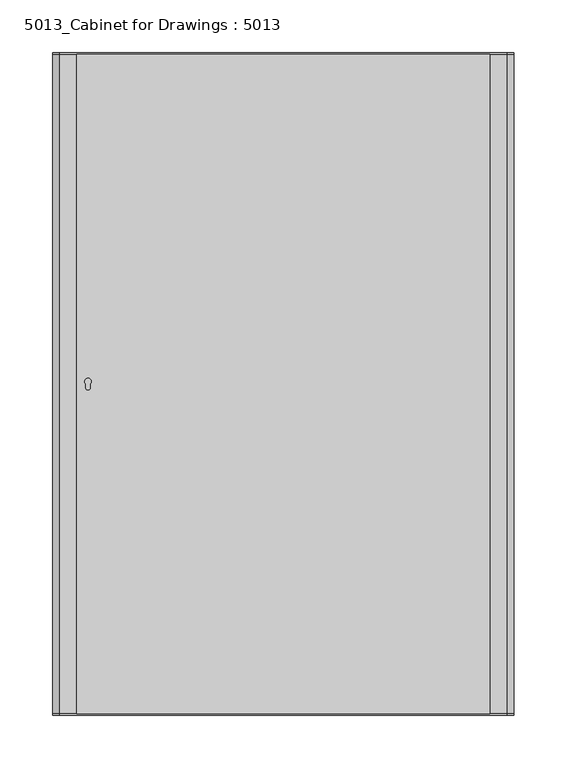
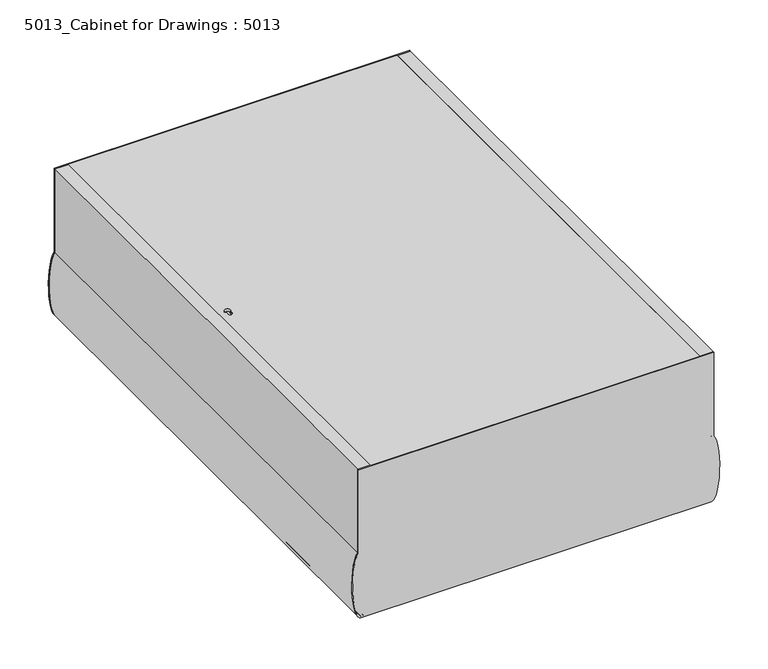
"""IFC4 building model written with IfcOpenShell, lengths in millimetres: alarm geometry, 5013_Cabinet for Drawings : 5013."""

from ifc_helpers import new_model, si_unit, point, frame, frame_2d, origin, origin_with_axes, place, context, project, spatial, polyline, circle_curve, ellipse_curve, trimmed, segment, composite_curve, outline, extrude, source, transform, mapped, element, save
from ifc_brep_helpers import plane_surface, extruded_surface, advanced_brep


def alarm_5013_cabinet_for_drawings_5013_d29890c5(model_context):
    return source(origin(), model_context, "Body", "SolidModel", [
        extrude(outline(polyline([(196.0, 312.5), (196.0, -312.5), (-196.0, -312.5), (-196.0, 312.5), (196.0, 312.5)]), holes=[composite_curve([segment(trimmed(circle_curve(frame_2d((-185.3840305, -3.2991506)), 2.3331281), [point((-187.7171587, -3.2991506))], [point((-183.0509024, -3.2991506))], True, "CARTESIAN"), True, "CONTINUOUS"), segment(polyline([(-183.0509024, -3.2991506), (-183.0509024, 0.0)]), True, "CONTINUOUS"), segment(trimmed(circle_curve(frame_2d((-185.3840305, 2.1998224)), 3.2066658), [point((-183.0509024, 0.0))], [point((-187.7171587, 0.0))], True, "CARTESIAN"), True, "CONTINUOUS"), segment(polyline([(-187.7171587, 0.0), (-187.7171587, -3.2991506)]), True, "CONTINUOUS")], self_intersect=False)]), frame((0.0, 0.0, 184.0), z_axis=(0.0, 0.0, 1.0), x_axis=(1.0, 0.0, 0.0)), (0.0, 0.0, 1.0), 3.0),
        extrude(outline(polyline([(206.0, 312.5), (206.0, -312.5), (-206.0, -312.5), (-206.0, 312.5), (206.0, 312.5)])), origin_with_axes(), (0.0, 0.0, 1.0), 3.0),
        advanced_brep(
        [(-212.0, 312.5, 187.0), (-212.0, 312.5, 82.0617947), (-209.0741049, 312.5, 0.0), (209.0741049, 312.5, 0.0), (212.0, 312.5, 82.0617947), (212.0, 312.5, 187.0), (-212.0, 314.0, 187.0), (212.0, 314.0, 187.0), (212.0, 314.0, 82.0617947), (209.0741049, 314.0, 0.0), (-209.0741049, 314.0, 0.0), (-212.0, 314.0, 82.0617947)],
        [
            (0, 1),
            (1, 2, ellipse_curve(frame((-209.0741049, 312.5, 41.9929453), z_axis=(0.0, -1.0, 0.0), x_axis=(0.0, 0.0, 1.0)), 41.9929453, 9.7780266)),
            (2, 3),
            (3, 4, ellipse_curve(frame((209.0741049, 312.5, 41.9929453), z_axis=(0.0, -1.0, 0.0), x_axis=(0.0, 0.0, 1.0)), 41.9929453, 9.7780266)),
            (4, 5),
            (5, 0),
            (6, 7),
            (7, 8),
            (8, 9, ellipse_curve(frame((209.0741049, 314.0, 41.9929453), z_axis=(0.0, 1.0, 0.0), x_axis=(0.0, 0.0, 1.0)), 41.9929453, 9.7780266)),
            (9, 10),
            (10, 11, ellipse_curve(frame((-209.0741049, 314.0, 41.9929453), z_axis=(0.0, 1.0, 0.0), x_axis=(0.0, 0.0, 1.0)), 41.9929453, 9.7780266)),
            (11, 6),
            (11, 1),
            (0, 6),
            (9, 3),
            (2, 10),
            (8, 4),
            (7, 5),
        ],
        [
            plane_surface(frame((-212.0, 312.5, 187.0), z_axis=(0.0, -1.0, 0.0), x_axis=(-1.0, 0.0, 0.0))),
            plane_surface(frame((-212.0, 314.0, 187.0), z_axis=(0.0, 1.0, 0.0), x_axis=(1.0, 0.0, 0.0))),
            plane_surface(frame((-212.0, 314.0, 82.0617947), z_axis=(-1.0, 0.0, 0.0), x_axis=(0.0, -1.0, 0.0))),
            plane_surface(frame((209.0741049, 314.0, 0.0), z_axis=(0.0, 0.0, -1.0), x_axis=(0.0, -1.0, 0.0))),
            extruded_surface(trimmed(ellipse_curve(frame((209.0741049, 311.0, 41.9929453), z_axis=(0.0, 1.0, 0.0), x_axis=(0.0, 0.0, 1.0)), 41.9929453, 9.7780266), [point((212.0, 311.0, 82.0617947))], [point((209.0741049, 311.0, 0.0))], True, "CARTESIAN"), (0.0, 1.5, 0.0), 1.5),
            plane_surface(frame((212.0, 314.0, 187.0), z_axis=(1.0, 0.0, 0.0), x_axis=(0.0, -1.0, 0.0))),
            plane_surface(frame((-212.0, 314.0, 187.0), z_axis=(0.0, 0.0, 1.0), x_axis=(0.0, -1.0, 0.0))),
            extruded_surface(trimmed(ellipse_curve(frame((-209.0741049, 311.0, 41.9929453), z_axis=(0.0, 1.0, 0.0), x_axis=(0.0, 0.0, 1.0)), 41.9929453, 9.7780266), [point((-209.0741049, 311.0, 0.0))], [point((-212.0, 311.0, 82.0617947))], True, "CARTESIAN"), (0.0, 1.5, 0.0), 1.5),
        ],
        [
            (0, [[1, 2, 3, 4, 5, 6]]),
            (1, [[7, 8, 9, 10, 11, 12]]),
            (2, [[-12, 13, -1, 14]]),
            (3, [[-10, 15, -3, 16]]),
            (4, [[-9, 17, -4, -15]]),
            (5, [[-8, 18, -5, -17]]),
            (6, [[-7, -14, -6, -18]]),
            (7, [[-11, -16, -2, -13]]),
        ],
    ),
        advanced_brep(
        [(-212.0, -312.5, 187.0), (212.0, -312.5, 187.0), (212.0, -312.5, 82.0617947), (209.0741049, -312.5, 0.0), (-209.0741049, -312.5, 0.0), (-212.0, -312.5, 82.0617947), (-212.0, -314.0, 187.0), (-212.0, -314.0, 82.0617947), (-209.0741049, -314.0, 0.0), (209.0741049, -314.0, 0.0), (212.0, -314.0, 82.0617947), (212.0, -314.0, 187.0)],
        [
            (0, 1),
            (1, 2),
            (2, 3, ellipse_curve(frame((209.0741049, -312.5, 41.9929453), z_axis=(0.0, 1.0, 0.0), x_axis=(0.0, 0.0, 1.0)), 41.9929453, 9.7780266)),
            (3, 4),
            (4, 5, ellipse_curve(frame((-209.0741049, -312.5, 41.9929453), z_axis=(0.0, 1.0, 0.0), x_axis=(0.0, 0.0, 1.0)), 41.9929453, 9.7780266)),
            (5, 0),
            (6, 7),
            (7, 8, ellipse_curve(frame((-209.0741049, -314.0, 41.9929453), z_axis=(0.0, -1.0, 0.0), x_axis=(0.0, 0.0, 1.0)), 41.9929453, 9.7780266)),
            (8, 9),
            (9, 10, ellipse_curve(frame((209.0741049, -314.0, 41.9929453), z_axis=(0.0, -1.0, 0.0), x_axis=(0.0, 0.0, 1.0)), 41.9929453, 9.7780266)),
            (10, 11),
            (11, 6),
            (6, 0),
            (5, 7),
            (8, 4),
            (3, 9),
            (2, 10),
            (1, 11),
        ],
        [
            plane_surface(frame((-212.0, -312.5, 82.0617947), z_axis=(0.0, 1.0, 0.0), x_axis=(0.0, 0.0, 1.0))),
            plane_surface(frame((-212.0, -314.0, 82.0617947), z_axis=(0.0, -1.0, 0.0), x_axis=(0.0, 0.0, -1.0))),
            plane_surface(frame((-212.0, -314.0, 187.0), z_axis=(-1.0, 0.0, 0.0), x_axis=(0.0, 1.0, 0.0))),
            plane_surface(frame((-209.0741049, -314.0, 0.0), z_axis=(0.0, 0.0, -1.0), x_axis=(0.0, 1.0, 0.0))),
            extruded_surface(trimmed(ellipse_curve(frame((209.0741049, -311.0, 41.9929453), z_axis=(0.0, -1.0, 0.0), x_axis=(0.0, 0.0, 1.0)), 41.9929453, 9.7780266), [point((209.0741049, -311.0, 0.0))], [point((212.0, -311.0, 82.0617947))], True, "CARTESIAN"), (0.0, -1.5, 0.0), 1.5),
            plane_surface(frame((212.0, -314.0, 82.0617947), z_axis=(1.0, 0.0, 0.0), x_axis=(0.0, 1.0, 0.0))),
            plane_surface(frame((212.0, -314.0, 187.0), z_axis=(0.0, 0.0, 1.0), x_axis=(0.0, 1.0, 0.0))),
            extruded_surface(trimmed(ellipse_curve(frame((-209.0741049, -311.0, 41.9929453), z_axis=(0.0, -1.0, 0.0), x_axis=(0.0, 0.0, 1.0)), 41.9929453, 9.7780266), [point((-212.0, -311.0, 82.0617947))], [point((-209.0741049, -311.0, 0.0))], True, "CARTESIAN"), (0.0, -1.5, 0.0), 1.5),
        ],
        [
            (0, [[1, 2, 3, 4, 5, 6]]),
            (1, [[7, 8, 9, 10, 11, 12]]),
            (2, [[-7, 13, -6, 14]]),
            (3, [[-9, 15, -4, 16]]),
            (4, [[-10, -16, -3, 17]]),
            (5, [[-11, -17, -2, 18]]),
            (6, [[-12, -18, -1, -13]]),
            (7, [[-8, -14, -5, -15]]),
        ],
    ),
        advanced_brep(
        [(209.0, -312.5, 82.0617947), (206.0741049, -312.5, 0.0), (209.0741049, -312.5, 0.0), (212.0, -312.5, 82.0617947), (212.0, -312.5, 187.0), (196.0, -312.5, 187.0), (196.0, -312.5, 184.0), (209.0, -312.5, 184.0), (209.0, 312.5, 82.0617947), (209.0, 312.5, 184.0), (196.0, 312.5, 184.0), (196.0, 312.5, 187.0), (212.0, 312.5, 187.0), (212.0, 312.5, 82.0617947), (209.0741049, 312.5, 0.0), (206.0741049, 312.5, 0.0)],
        [
            (0, 1, ellipse_curve(frame((206.0741049, -312.5, 41.9929453), z_axis=(0.0, 1.0, 0.0), x_axis=(0.0, 0.0, 1.0)), 41.9929453, 9.7780266)),
            (1, 2),
            (2, 3, ellipse_curve(frame((209.0741049, -312.5, 41.9929453), z_axis=(0.0, -1.0, 0.0), x_axis=(0.0, 0.0, 1.0)), 41.9929453, 9.7780266)),
            (3, 4),
            (4, 5),
            (5, 6),
            (6, 7),
            (7, 0),
            (8, 9),
            (9, 10),
            (10, 11),
            (11, 12),
            (12, 13),
            (13, 14, ellipse_curve(frame((209.0741049, 312.5, 41.9929453), z_axis=(0.0, 1.0, 0.0), x_axis=(0.0, 0.0, 1.0)), 41.9929453, 9.7780266)),
            (14, 15),
            (15, 8, ellipse_curve(frame((206.0741049, 312.5, 41.9929453), z_axis=(0.0, -1.0, 0.0), x_axis=(0.0, 0.0, 1.0)), 41.9929453, 9.7780266)),
            (7, 9),
            (8, 0),
            (6, 10),
            (5, 11),
            (4, 12),
            (3, 13),
            (2, 14),
            (1, 15),
        ],
        [
            plane_surface(frame((206.0741049, -312.5, 83.9858906), z_axis=(0.0, -1.0, 0.0), x_axis=(1.0, 0.0, 0.0))),
            plane_surface(frame((206.0741049, 312.5, 83.9858906), z_axis=(0.0, 1.0, 0.0), x_axis=(-1.0, 0.0, 0.0))),
            plane_surface(frame((209.0, -312.5, 184.0), z_axis=(-1.0, 0.0, 0.0), x_axis=(0.0, 1.0, 0.0))),
            plane_surface(frame((196.0, -312.5, 184.0), z_axis=(0.0, 0.0, -1.0), x_axis=(0.0, 1.0, 0.0))),
            plane_surface(frame((196.0, -312.5, 187.0), z_axis=(-1.0, 0.0, 0.0), x_axis=(0.0, 1.0, 0.0))),
            plane_surface(frame((212.0, -312.5, 187.0), z_axis=(0.0, 0.0, 1.0), x_axis=(0.0, 1.0, 0.0))),
            plane_surface(frame((212.0, -312.5, 82.0617947), z_axis=(1.0, 0.0, 0.0), x_axis=(0.0, 1.0, 0.0))),
            extruded_surface(trimmed(ellipse_curve(frame((209.0741049, 937.5, 41.9929453), z_axis=(0.0, -1.0, 0.0), x_axis=(0.0, 0.0, 1.0)), 41.9929453, 9.7780266), [point((209.0741049, 937.5, 0.0))], [point((212.0, 937.5, 82.0617947))], True, "CARTESIAN"), (0.0, -625.0, 0.0), 625.0),
            plane_surface(frame((206.0741049, -312.5, 0.0), z_axis=(0.0, 0.0, -1.0), x_axis=(0.0, 1.0, 0.0))),
            extruded_surface(trimmed(ellipse_curve(frame((206.0741049, 937.5, 41.9929453), z_axis=(0.0, 1.0, 0.0), x_axis=(0.0, 0.0, 1.0)), 41.9929453, 9.7780266), [point((209.0, 937.5, 82.0617947))], [point((206.0741049, 937.5, 0.0))], True, "CARTESIAN"), (0.0, -625.0, 0.0), 625.0),
        ],
        [
            (0, [[1, 2, 3, 4, 5, 6, 7, 8]]),
            (1, [[9, 10, 11, 12, 13, 14, 15, 16]]),
            (2, [[-8, 17, -9, 18]]),
            (3, [[-7, 19, -10, -17]]),
            (4, [[-6, 20, -11, -19]]),
            (5, [[-5, 21, -12, -20]]),
            (6, [[-4, 22, -13, -21]]),
            (7, [[-3, 23, -14, -22]]),
            (8, [[-2, 24, -15, -23]]),
            (9, [[-1, -18, -16, -24]]),
        ],
    ),
        advanced_brep(
        [(-209.0, -312.5, 82.0617947), (-209.0, -312.5, 184.0), (-196.0, -312.5, 184.0), (-196.0, -312.5, 187.0), (-212.0, -312.5, 187.0), (-212.0, -312.5, 82.0617947), (-209.0741049, -312.5, 0.0), (-206.0741049, -312.5, 0.0), (-209.0, 312.5, 82.0617947), (-206.0741049, 312.5, 0.0), (-209.0741049, 312.5, 0.0), (-212.0, 312.5, 82.0617947), (-212.0, 312.5, 187.0), (-196.0, 312.5, 187.0), (-196.0, 312.5, 184.0), (-209.0, 312.5, 184.0)],
        [
            (0, 1),
            (1, 2),
            (2, 3),
            (3, 4),
            (4, 5),
            (5, 6, ellipse_curve(frame((-209.0741049, -312.5, 41.9929453), z_axis=(0.0, -1.0, 0.0), x_axis=(0.0, 0.0, 1.0)), 41.9929453, 9.7780266)),
            (6, 7),
            (7, 0, ellipse_curve(frame((-206.0741049, -312.5, 41.9929453), z_axis=(0.0, 1.0, 0.0), x_axis=(0.0, 0.0, 1.0)), 41.9929453, 9.7780266)),
            (8, 9, ellipse_curve(frame((-206.0741049, 312.5, 41.9929453), z_axis=(0.0, -1.0, 0.0), x_axis=(0.0, 0.0, 1.0)), 41.9929453, 9.7780266)),
            (9, 10),
            (10, 11, ellipse_curve(frame((-209.0741049, 312.5, 41.9929453), z_axis=(0.0, 1.0, 0.0), x_axis=(0.0, 0.0, 1.0)), 41.9929453, 9.7780266)),
            (11, 12),
            (12, 13),
            (13, 14),
            (14, 15),
            (15, 8),
            (0, 8),
            (15, 1),
            (14, 2),
            (13, 3),
            (12, 4),
            (11, 5),
            (10, 6),
            (9, 7),
        ],
        [
            plane_surface(frame((-209.0, -312.5, 184.0), z_axis=(0.0, -1.0, 0.0), x_axis=(0.0, 0.0, 1.0))),
            plane_surface(frame((-209.0, 312.5, 184.0), z_axis=(0.0, 1.0, 0.0), x_axis=(0.0, 0.0, -1.0))),
            plane_surface(frame((-209.0, -312.5, 82.0617947), z_axis=(1.0, 0.0, 0.0), x_axis=(0.0, 1.0, 0.0))),
            plane_surface(frame((-209.0, -312.5, 184.0), z_axis=(0.0, 0.0, -1.0), x_axis=(0.0, 1.0, 0.0))),
            plane_surface(frame((-196.0, -312.5, 184.0), z_axis=(1.0, 0.0, 0.0), x_axis=(0.0, 1.0, 0.0))),
            plane_surface(frame((-196.0, -312.5, 187.0), z_axis=(0.0, 0.0, 1.0), x_axis=(0.0, 1.0, 0.0))),
            plane_surface(frame((-212.0, -312.5, 187.0), z_axis=(-1.0, 0.0, 0.0), x_axis=(0.0, 1.0, 0.0))),
            extruded_surface(trimmed(ellipse_curve(frame((-209.0741049, 937.5, 41.9929453), z_axis=(0.0, -1.0, 0.0), x_axis=(0.0, 0.0, 1.0)), 41.9929453, 9.7780266), [point((-212.0, 937.5, 82.0617947))], [point((-209.0741049, 937.5, 0.0))], True, "CARTESIAN"), (0.0, -625.0, 0.0), 625.0),
            plane_surface(frame((-209.0741049, -312.5, 0.0), z_axis=(0.0, 0.0, -1.0), x_axis=(0.0, 1.0, 0.0))),
            extruded_surface(trimmed(ellipse_curve(frame((-206.0741049, 937.5, 41.9929453), z_axis=(0.0, 1.0, 0.0), x_axis=(0.0, 0.0, 1.0)), 41.9929453, 9.7780266), [point((-206.0741049, 937.5, 0.0))], [point((-209.0, 937.5, 82.0617947))], True, "CARTESIAN"), (0.0, -625.0, 0.0), 625.0),
        ],
        [
            (0, [[1, 2, 3, 4, 5, 6, 7, 8]]),
            (1, [[9, 10, 11, 12, 13, 14, 15, 16]]),
            (2, [[-1, 17, -16, 18]]),
            (3, [[-2, -18, -15, 19]]),
            (4, [[-3, -19, -14, 20]]),
            (5, [[-4, -20, -13, 21]]),
            (6, [[-5, -21, -12, 22]]),
            (7, [[-6, -22, -11, 23]]),
            (8, [[-7, -23, -10, 24]]),
            (9, [[-8, -24, -9, -17]]),
        ],
    ),
        advanced_brep(
        [(-209.0, -312.5, 82.0643791), (-206.0, -312.5, 0.0), (-203.0, -312.5, 0.0), (-206.0, -312.5, 82.0643791), (-206.0, -312.5, 122.0), (-209.0, -312.5, 122.0), (-209.0, 312.5, 82.0643791), (-209.0, 312.5, 122.0), (-206.0, 312.5, 122.0), (-206.0, 312.5, 82.0643791), (-203.0, 312.5, 0.0), (-206.0, 312.5, 0.0)],
        [
            (0, 1, ellipse_curve(frame((-206.0, -312.5, 41.9994538), z_axis=(0.0, -1.0, 0.0), x_axis=(0.0, 0.0, 1.0)), 41.9994538, 10.0)),
            (1, 2),
            (2, 3, ellipse_curve(frame((-203.0, -312.5, 41.9994538), z_axis=(0.0, 1.0, 0.0), x_axis=(0.0, 0.0, 1.0)), 41.9994538, 10.0)),
            (3, 4),
            (4, 5),
            (5, 0),
            (6, 7),
            (7, 8),
            (8, 9),
            (9, 10, ellipse_curve(frame((-203.0, 312.5, 41.9994538), z_axis=(0.0, -1.0, 0.0), x_axis=(0.0, 0.0, 1.0)), 41.9994538, 10.0)),
            (10, 11),
            (11, 6, ellipse_curve(frame((-206.0, 312.5, 41.9994538), z_axis=(0.0, 1.0, 0.0), x_axis=(0.0, 0.0, 1.0)), 41.9994538, 10.0)),
            (3, 9),
            (8, 4),
            (7, 5),
            (6, 0),
            (11, 1),
            (10, 2),
        ],
        [
            plane_surface(frame((-219.0, -312.5, 0.0), z_axis=(0.0, -1.0, 0.0), x_axis=(0.0, 0.0, 1.0))),
            plane_surface(frame((-219.0, 312.5, 0.0), z_axis=(0.0, 1.0, 0.0), x_axis=(0.0, 0.0, 1.0))),
            plane_surface(frame((-206.0, -312.5, 82.0643791), z_axis=(1.0, 0.0, 0.0), x_axis=(0.0, 1.0, 0.0))),
            plane_surface(frame((-206.0, -312.5, 122.0), z_axis=(0.0, 0.0, 1.0), x_axis=(0.0, 1.0, 0.0))),
            plane_surface(frame((-209.0, -312.5, 122.0), z_axis=(-1.0, 0.0, 0.0), x_axis=(0.0, 1.0, 0.0))),
            extruded_surface(trimmed(ellipse_curve(frame((-206.0, 312.5, 41.9994538), z_axis=(0.0, -1.0, 0.0), x_axis=(0.0, 0.0, 1.0)), 41.9994538, 10.0), [point((-209.0, 312.5, 82.0643791))], [point((-206.0, 312.5, 0.0))], True, "CARTESIAN"), (0.0, -625.0, 0.0), 625.0),
            plane_surface(frame((-206.0, -312.5, 0.0), z_axis=(0.0, 0.0, -1.0), x_axis=(0.0, 1.0, 0.0))),
            extruded_surface(trimmed(ellipse_curve(frame((-203.0, 312.5, 41.9994538), z_axis=(0.0, 1.0, 0.0), x_axis=(0.0, 0.0, 1.0)), 41.9994538, 10.0), [point((-203.0, 312.5, 0.0))], [point((-206.0, 312.5, 82.0643791))], True, "CARTESIAN"), (0.0, -625.0, 0.0), 625.0),
        ],
        [
            (0, [[1, 2, 3, 4, 5, 6]]),
            (1, [[7, 8, 9, 10, 11, 12]]),
            (2, [[-4, 13, -9, 14]]),
            (3, [[-5, -14, -8, 15]]),
            (4, [[-6, -15, -7, 16]]),
            (5, [[-1, -16, -12, 17]]),
            (6, [[-2, -17, -11, 18]]),
            (7, [[-3, -18, -10, -13]]),
        ],
    ),
        advanced_brep(
        [(209.0, -312.5, 82.0643791), (209.0, -312.5, 122.0), (206.0, -312.5, 122.0), (206.0, -312.5, 82.0643791), (203.0, -312.5, 0.0), (206.0, -312.5, 0.0), (209.0, 312.5, 82.0643791), (206.0, 312.5, 0.0), (203.0, 312.5, 0.0), (206.0, 312.5, 82.0643791), (206.0, 312.5, 122.0), (209.0, 312.5, 122.0)],
        [
            (0, 1),
            (1, 2),
            (2, 3),
            (3, 4, ellipse_curve(frame((203.0, -312.5, 41.9994538), z_axis=(0.0, 1.0, 0.0), x_axis=(0.0, 0.0, 1.0)), 41.9994538, 10.0)),
            (4, 5),
            (5, 0, ellipse_curve(frame((206.0, -312.5, 41.9994538), z_axis=(0.0, -1.0, 0.0), x_axis=(0.0, 0.0, 1.0)), 41.9994538, 10.0)),
            (6, 7, ellipse_curve(frame((206.0, 312.5, 41.9994538), z_axis=(0.0, 1.0, 0.0), x_axis=(0.0, 0.0, 1.0)), 41.9994538, 10.0)),
            (7, 8),
            (8, 9, ellipse_curve(frame((203.0, 312.5, 41.9994538), z_axis=(0.0, -1.0, 0.0), x_axis=(0.0, 0.0, 1.0)), 41.9994538, 10.0)),
            (9, 10),
            (10, 11),
            (11, 6),
            (0, 6),
            (11, 1),
            (10, 2),
            (9, 3),
            (8, 4),
            (7, 5),
        ],
        [
            plane_surface(frame((219.0, -312.5, 0.0), z_axis=(0.0, -1.0, 0.0), x_axis=(0.0, 0.0, 1.0))),
            plane_surface(frame((219.0, 312.5, 0.0), z_axis=(0.0, 1.0, 0.0), x_axis=(0.0, 0.0, 1.0))),
            plane_surface(frame((209.0, -312.5, 82.0643791), z_axis=(1.0, 0.0, 0.0), x_axis=(0.0, 1.0, 0.0))),
            plane_surface(frame((209.0, -312.5, 122.0), z_axis=(0.0, 0.0, 1.0), x_axis=(0.0, 1.0, 0.0))),
            plane_surface(frame((206.0, -312.5, 122.0), z_axis=(-1.0, 0.0, 0.0), x_axis=(0.0, 1.0, 0.0))),
            extruded_surface(trimmed(ellipse_curve(frame((203.0, 312.5, 41.9994538), z_axis=(0.0, 1.0, 0.0), x_axis=(0.0, 0.0, 1.0)), 41.9994538, 10.0), [point((206.0, 312.5, 82.0643791))], [point((203.0, 312.5, 0.0))], True, "CARTESIAN"), (0.0, -625.0, 0.0), 625.0),
            plane_surface(frame((203.0, -312.5, 0.0), z_axis=(0.0, 0.0, -1.0), x_axis=(0.0, 1.0, 0.0))),
            extruded_surface(trimmed(ellipse_curve(frame((206.0, 312.5, 41.9994538), z_axis=(0.0, -1.0, 0.0), x_axis=(0.0, 0.0, 1.0)), 41.9994538, 10.0), [point((206.0, 312.5, 0.0))], [point((209.0, 312.5, 82.0643791))], True, "CARTESIAN"), (0.0, -625.0, 0.0), 625.0),
        ],
        [
            (0, [[1, 2, 3, 4, 5, 6]]),
            (1, [[7, 8, 9, 10, 11, 12]]),
            (2, [[-1, 13, -12, 14]]),
            (3, [[-2, -14, -11, 15]]),
            (4, [[-3, -15, -10, 16]]),
            (5, [[-4, -16, -9, 17]]),
            (6, [[-5, -17, -8, 18]]),
            (7, [[-6, -18, -7, -13]]),
        ],
    ),
        advanced_brep(
        [(209.0, 312.5, 122.0), (209.0, 312.5, 82.0643791), (206.0, 312.5, 0.0), (-206.0, 312.5, 0.0), (-209.0, 312.5, 82.0643791), (-209.0, 312.5, 122.0), (209.0, 311.0, 122.0), (-209.0, 311.0, 122.0), (-209.0, 311.0, 82.0643791), (-206.0, 311.0, 0.0), (206.0, 311.0, 0.0), (209.0, 311.0, 82.0643791)],
        [
            (0, 1),
            (1, 2, ellipse_curve(frame((206.0, 312.5, 41.9994538), z_axis=(0.0, 1.0, 0.0), x_axis=(0.0, 0.0, 1.0)), 41.9994538, 10.0)),
            (2, 3),
            (3, 4, ellipse_curve(frame((-206.0, 312.5, 41.9994538), z_axis=(0.0, 1.0, 0.0), x_axis=(0.0, 0.0, 1.0)), 41.9994538, 10.0)),
            (4, 5),
            (5, 0),
            (6, 7),
            (7, 8),
            (8, 9, ellipse_curve(frame((-206.0, 311.0, 41.9994538), z_axis=(0.0, -1.0, 0.0), x_axis=(0.0, 0.0, 1.0)), 41.9994538, 10.0)),
            (9, 10),
            (10, 11, ellipse_curve(frame((206.0, 311.0, 41.9994538), z_axis=(0.0, -1.0, 0.0), x_axis=(0.0, 0.0, 1.0)), 41.9994538, 10.0)),
            (11, 6),
            (0, 6),
            (11, 1),
            (10, 2),
            (9, 3),
            (4, 8),
            (7, 5),
        ],
        [
            plane_surface(frame((209.0, 312.5, 122.0), z_axis=(0.0, 1.0, 0.0), x_axis=(0.0, 0.0, -1.0))),
            plane_surface(frame((209.0, 311.0, 122.0), z_axis=(0.0, -1.0, 0.0), x_axis=(0.0, 0.0, 1.0))),
            plane_surface(frame((209.0, 312.5, 122.0), z_axis=(1.0, 0.0, 0.0), x_axis=(0.0, -1.0, 0.0))),
            extruded_surface(trimmed(ellipse_curve(frame((206.0, 309.5, 41.9994538), z_axis=(0.0, 1.0, 0.0), x_axis=(0.0, 0.0, 1.0)), 41.9994538, 10.0), [point((209.0, 309.5, 82.0643791))], [point((206.0, 309.5, 0.0))], True, "CARTESIAN"), (0.0, 1.5, 0.0), 1.5),
            plane_surface(frame((206.0, 312.5, 0.0), z_axis=(0.0, 0.0, -1.0), x_axis=(0.0, -1.0, 0.0))),
            plane_surface(frame((-209.0, 312.5, 82.0643791), z_axis=(-1.0, 0.0, 0.0), x_axis=(0.0, -1.0, 0.0))),
            plane_surface(frame((-209.0, 312.5, 122.0), z_axis=(0.0, 0.0, 1.0), x_axis=(0.0, -1.0, 0.0))),
            extruded_surface(trimmed(ellipse_curve(frame((-206.0, 309.5, 41.9994538), z_axis=(0.0, 1.0, 0.0), x_axis=(0.0, 0.0, 1.0)), 41.9994538, 10.0), [point((-206.0, 309.5, 0.0))], [point((-209.0, 309.5, 82.0643791))], True, "CARTESIAN"), (0.0, 1.5, 0.0), 1.5),
        ],
        [
            (0, [[1, 2, 3, 4, 5, 6]]),
            (1, [[7, 8, 9, 10, 11, 12]]),
            (2, [[-1, 13, -12, 14]]),
            (3, [[-2, -14, -11, 15]]),
            (4, [[-3, -15, -10, 16]]),
            (5, [[-5, 17, -8, 18]]),
            (6, [[-6, -18, -7, -13]]),
            (7, [[-4, -16, -9, -17]]),
        ],
    ),
        advanced_brep(
        [(209.0, -312.5, 122.0), (-209.0, -312.5, 122.0), (-209.0, -312.5, 82.0643791), (-206.0, -312.5, 0.0), (206.0, -312.5, 0.0), (209.0, -312.5, 82.0643791), (209.0, -311.0, 122.0), (209.0, -311.0, 82.0643791), (206.0, -311.0, 0.0), (-206.0, -311.0, 0.0), (-209.0, -311.0, 82.0643791), (-209.0, -311.0, 122.0)],
        [
            (0, 1),
            (1, 2),
            (2, 3, ellipse_curve(frame((-206.0, -312.5, 41.9994538), z_axis=(0.0, -1.0, 0.0), x_axis=(0.0, 0.0, 1.0)), 41.9994538, 10.0)),
            (3, 4),
            (4, 5, ellipse_curve(frame((206.0, -312.5, 41.9994538), z_axis=(0.0, -1.0, 0.0), x_axis=(0.0, 0.0, 1.0)), 41.9994538, 10.0)),
            (5, 0),
            (6, 7),
            (7, 8, ellipse_curve(frame((206.0, -311.0, 41.9994538), z_axis=(0.0, 1.0, 0.0), x_axis=(0.0, 0.0, 1.0)), 41.9994538, 10.0)),
            (8, 9),
            (9, 10, ellipse_curve(frame((-206.0, -311.0, 41.9994538), z_axis=(0.0, 1.0, 0.0), x_axis=(0.0, 0.0, 1.0)), 41.9994538, 10.0)),
            (10, 11),
            (11, 6),
            (0, 6),
            (11, 1),
            (10, 2),
            (9, 3),
            (8, 4),
            (7, 5),
        ],
        [
            plane_surface(frame((-209.0, -312.5, 122.0), z_axis=(0.0, -1.0, 0.0), x_axis=(-1.0, 0.0, 0.0))),
            plane_surface(frame((-209.0, -311.0, 122.0), z_axis=(0.0, 1.0, 0.0), x_axis=(1.0, 0.0, 0.0))),
            plane_surface(frame((209.0, -312.5, 122.0), z_axis=(0.0, 0.0, 1.0), x_axis=(0.0, 1.0, 0.0))),
            plane_surface(frame((-209.0, -312.5, 122.0), z_axis=(-1.0, 0.0, 0.0), x_axis=(0.0, 1.0, 0.0))),
            extruded_surface(trimmed(ellipse_curve(frame((-206.0, -309.5, 41.9994538), z_axis=(0.0, -1.0, 0.0), x_axis=(0.0, 0.0, 1.0)), 41.9994538, 10.0), [point((-209.0, -309.5, 82.0643791))], [point((-206.0, -309.5, 0.0))], True, "CARTESIAN"), (0.0, -1.5, 0.0), 1.5),
            plane_surface(frame((-206.0, -312.5, 0.0), z_axis=(0.0, 0.0, -1.0), x_axis=(0.0, 1.0, 0.0))),
            extruded_surface(trimmed(ellipse_curve(frame((206.0, -309.5, 41.9994538), z_axis=(0.0, -1.0, 0.0), x_axis=(0.0, 0.0, 1.0)), 41.9994538, 10.0), [point((206.0, -309.5, 0.0))], [point((209.0, -309.5, 82.0643791))], True, "CARTESIAN"), (0.0, -1.5, 0.0), 1.5),
            plane_surface(frame((209.0, -312.5, 82.0643791), z_axis=(1.0, 0.0, 0.0), x_axis=(0.0, 1.0, 0.0))),
        ],
        [
            (0, [[1, 2, 3, 4, 5, 6]]),
            (1, [[7, 8, 9, 10, 11, 12]]),
            (2, [[-1, 13, -12, 14]]),
            (3, [[-2, -14, -11, 15]]),
            (4, [[-3, -15, -10, 16]]),
            (5, [[-4, -16, -9, 17]]),
            (6, [[-5, -17, -8, 18]]),
            (7, [[-6, -18, -7, -13]]),
        ],
    ),
    ])


if __name__ == "__main__":
    model = new_model("IFC4")
    model_context = context("Model", 3, world=origin())
    ifc_project = project(units=[si_unit("LENGTHUNIT", "METRE", prefix="MILLI")], contexts=[model_context])
    site = spatial("IfcSite", under=ifc_project)
    building = spatial("IfcBuilding", under=site)
    placement = place(None, origin())
    alarm_5013_cabinet_for_drawings_5013_shape = alarm_5013_cabinet_for_drawings_5013_d29890c5(model_context)
    element("IfcAlarm", 1, ObjectType="5013_Cabinet for Drawings : 5013", at=placement, inside=building, context=model_context, shape_type="MappedRepresentation", body=[
        mapped(alarm_5013_cabinet_for_drawings_5013_shape, transform((0.0, 0.0, 0.0), x_axis=(1.0, 0.0, 0.0), y_axis=(0.0, 1.0, 0.0), z_axis=(0.0, 0.0, 1.0))),
    ])
    save(model, "model.ifc")
